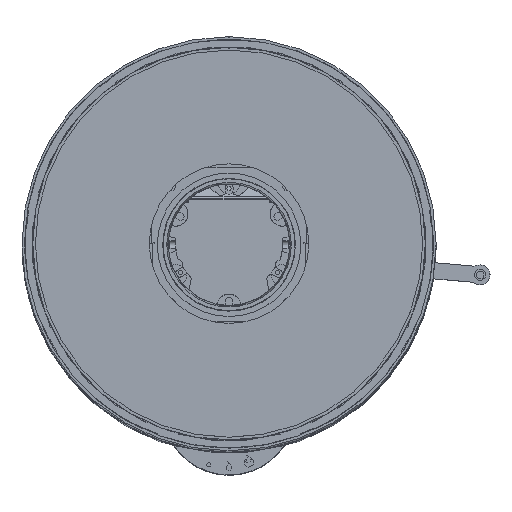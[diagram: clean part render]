
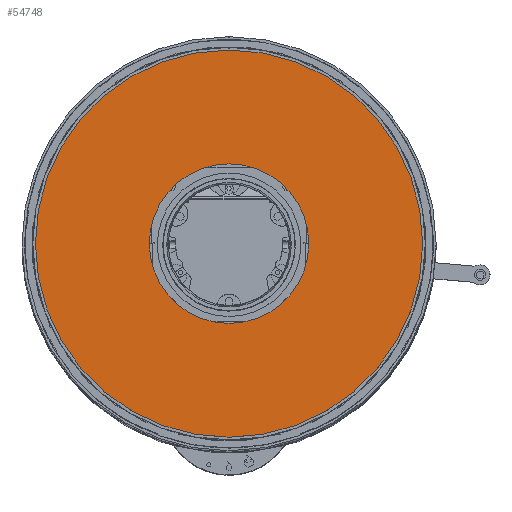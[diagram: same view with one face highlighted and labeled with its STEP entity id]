
A CAD part, top view. The second image highlights one B-rep face of the part: STEP entity #54748.
In plain terms, the highlighted planar face has unit normal (0, 0, 1).
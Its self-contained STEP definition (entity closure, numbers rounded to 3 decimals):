
#717=FACE_BOUND('',#5692,.T.);
#1229=PLANE('',#57774);
#2857=FACE_OUTER_BOUND('',#5691,.T.);
#5691=EDGE_LOOP('',(#35612,#35613));
#5692=EDGE_LOOP('',(#35614));
#18838=CIRCLE('',#57753,216.);
#18850=CIRCLE('',#57769,89.);
#18852=CIRCLE('',#57772,216.);
#21607=VERTEX_POINT('',#79756);
#21608=VERTEX_POINT('',#79757);
#21613=VERTEX_POINT('',#79786);
#26996=EDGE_CURVE('',#21607,#21608,#18838,.T.);
#27016=EDGE_CURVE('',#21613,#21613,#18850,.T.);
#27019=EDGE_CURVE('',#21608,#21607,#18852,.T.);
#35612=ORIENTED_EDGE('',*,*,#26996,.F.);
#35613=ORIENTED_EDGE('',*,*,#27019,.F.);
#35614=ORIENTED_EDGE('',*,*,#27016,.T.);
#54748=ADVANCED_FACE('',(#2857,#717),#1229,.F.);
#57753=AXIS2_PLACEMENT_3D('',#79758,#63771,#63772);
#57769=AXIS2_PLACEMENT_3D('',#79787,#63811,#63812);
#57772=AXIS2_PLACEMENT_3D('',#79792,#63818,#63819);
#57774=AXIS2_PLACEMENT_3D('',#79794,#63822,#63823);
#63771=DIRECTION('center_axis',(0.,0.,
-1.));
#63772=DIRECTION('ref_axis',(-1.,0.,0.));
#63811=DIRECTION('center_axis',(0.,0.,
-1.));
#63812=DIRECTION('ref_axis',(-1.,0.,0.));
#63818=DIRECTION('center_axis',(0.,0.,
-1.));
#63819=DIRECTION('ref_axis',(-1.,0.,0.));
#63822=DIRECTION('center_axis',(0.,0.,
-1.));
#63823=DIRECTION('ref_axis',(-1.,0.,0.));
#79756=CARTESIAN_POINT('',(0.493,215.999,957.5));
#79757=CARTESIAN_POINT('',(-0.493,215.999,957.5));
#79758=CARTESIAN_POINT('Origin',(0.,0.,
957.5));
#79786=CARTESIAN_POINT('',(89.,0.,957.5));
#79787=CARTESIAN_POINT('Origin',(0.,0.,
957.5));
#79792=CARTESIAN_POINT('Origin',(0.,0.,
957.5));
#79794=CARTESIAN_POINT('Origin',(0.,0.,
957.5));
